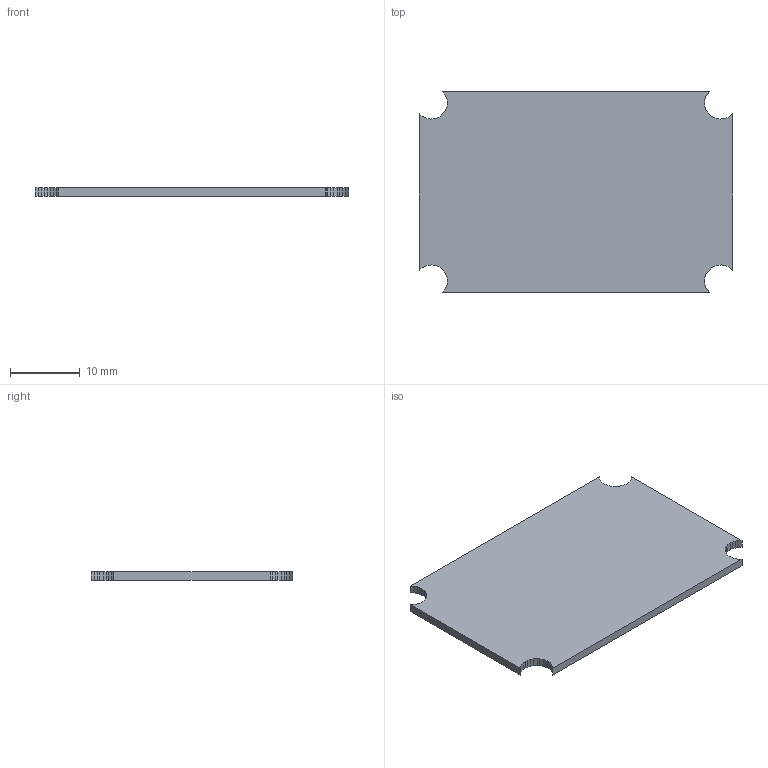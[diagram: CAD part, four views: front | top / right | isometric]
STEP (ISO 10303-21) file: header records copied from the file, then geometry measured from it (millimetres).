
FILE_DESCRIPTION(('AVO Performance Horse - montaje de la cincha (B-rep poliedrico)'),'2;1');
FILE_NAME('AVO_CINCHA_R6_9_separador_TPU85A','2026-11-15T12:00:00',('AVO Performance Horse'),('AVO Performance Horse'),'avo_cad.py','avo_cad.py (numpy)','');
FILE_SCHEMA(('AUTOMOTIVE_DESIGN { 1 0 10303 214 1 1 1 1 }'));
Length unit declared in the file: millimetre
Products named in the file (1): AVO_CINCHA_R6_9_separador_TPU85A
Bounding box: 45 x 29 x 1.2 mm (x, y, z)
Volume: 1498 mm3; surface area: 2678.8 mm2
Topology: 1 solids, 1 shells, 70 faces, 204 edges, 136 vertices
Faces by surface type: plane 70
Entity records: 1735 total; most frequent: ORIENTED_EDGE 408, VECTOR 204, LINE 204, EDGE_CURVE 204, CARTESIAN_POINT 137, VERTEX_POINT 136, AXIS2_PLACEMENT_3D 71, EDGE_LOOP 70
